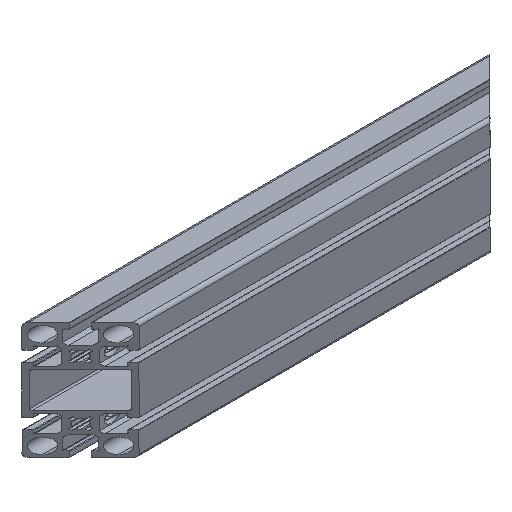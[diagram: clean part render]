
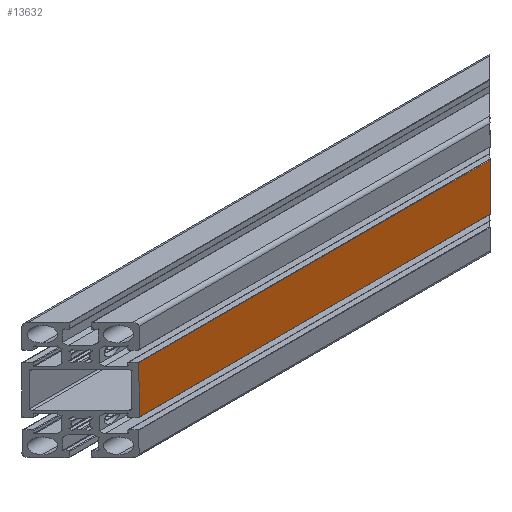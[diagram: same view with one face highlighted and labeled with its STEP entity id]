
A CAD part, isometric view. The second image highlights one B-rep face of the part: STEP entity #13632.
In plain terms, the highlighted planar face has unit normal (0, -1, 0).
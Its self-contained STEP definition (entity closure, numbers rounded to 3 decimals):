
#135 = DIRECTION ( 'NONE',  ( 1., 0., 0. ) ) ;
#326 = CARTESIAN_POINT ( 'NONE',  ( -165., -22.5, 18.1 ) ) ;
#391 = CARTESIAN_POINT ( 'NONE',  ( -120., -22.5, -18.1 ) ) ;
#487 = VECTOR ( 'NONE', #9011, 1000. ) ;
#630 = EDGE_CURVE ( 'NONE', #9429, #2387, #5416, .T. ) ;
#1549 = ORIENTED_EDGE ( 'NONE', *, *, #7221, .F. ) ;
#1915 = CARTESIAN_POINT ( 'NONE',  ( 150., -22.5, -18.1 ) ) ;
#2309 = AXIS2_PLACEMENT_3D ( 'NONE', #13707, #11056, #11224 ) ;
#2387 = VERTEX_POINT ( 'NONE', #15399 ) ;
#2422 = VECTOR ( 'NONE', #8089, 1000. ) ;
#2465 = CARTESIAN_POINT ( 'NONE',  ( -120., -22.5, -45. ) ) ;
#2903 = VECTOR ( 'NONE', #9403, 1000. ) ;
#4313 = EDGE_CURVE ( 'NONE', #13758, #15351, #6867, .T. ) ;
#4424 = EDGE_LOOP ( 'NONE', ( #12706, #6519, #1549, #9756 ) ) ;
#5035 = CARTESIAN_POINT ( 'NONE',  ( 150., -22.5, 18.1 ) ) ;
#5397 = CARTESIAN_POINT ( 'NONE',  ( 150., -22.5, -45. ) ) ;
#5416 = LINE ( 'NONE', #2465, #487 ) ;
#6519 = ORIENTED_EDGE ( 'NONE', *, *, #4313, .T. ) ;
#6645 = FACE_OUTER_BOUND ( 'NONE', #4424, .T. ) ;
#6867 = LINE ( 'NONE', #5397, #2903 ) ;
#7221 = EDGE_CURVE ( 'NONE', #2387, #15351, #8182, .T. ) ;
#8089 = DIRECTION ( 'NONE',  ( 1., 0., 0. ) ) ;
#8182 = LINE ( 'NONE', #326, #2422 ) ;
#8663 = VECTOR ( 'NONE', #135, 1000. ) ;
#9011 = DIRECTION ( 'NONE',  ( 0., 0., 1. ) ) ;
#9254 = EDGE_CURVE ( 'NONE', #9429, #13758, #13390, .T. ) ;
#9403 = DIRECTION ( 'NONE',  ( 0., 0., 1. ) ) ;
#9429 = VERTEX_POINT ( 'NONE', #391 ) ;
#9756 = ORIENTED_EDGE ( 'NONE', *, *, #630, .F. ) ;
#11056 = DIRECTION ( 'NONE',  ( 0., 1., 0. ) ) ;
#11224 = DIRECTION ( 'NONE',  ( 0., 0., 1. ) ) ;
#12079 = CARTESIAN_POINT ( 'NONE',  ( -165., -22.5, -18.1 ) ) ;
#12706 = ORIENTED_EDGE ( 'NONE', *, *, #9254, .T. ) ;
#13390 = LINE ( 'NONE', #12079, #8663 ) ;
#13632 = ADVANCED_FACE ( 'NONE', ( #6645 ), #16577, .F. ) ;
#13707 = CARTESIAN_POINT ( 'NONE',  ( -165., -22.5, -18.1 ) ) ;
#13758 = VERTEX_POINT ( 'NONE', #1915 ) ;
#15351 = VERTEX_POINT ( 'NONE', #5035 ) ;
#15399 = CARTESIAN_POINT ( 'NONE',  ( -120., -22.5, 18.1 ) ) ;
#16577 = PLANE ( 'NONE',  #2309 ) ;
